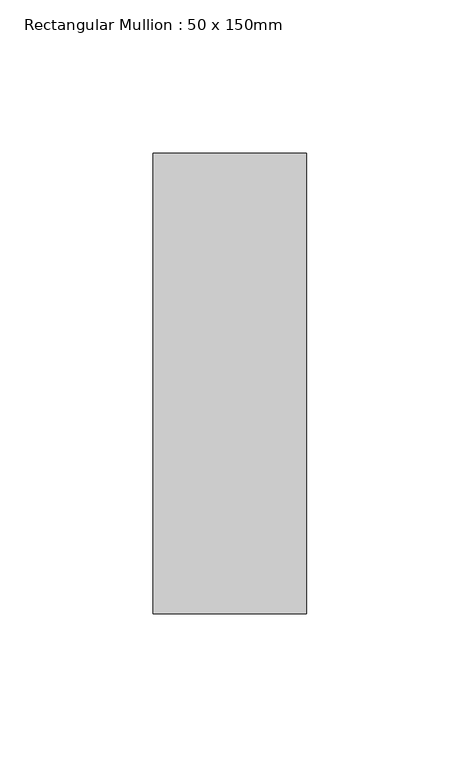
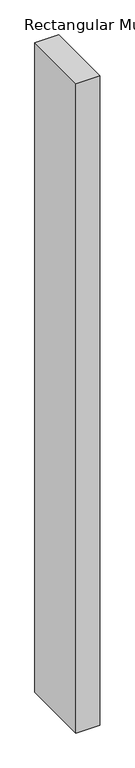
"""IFC4 building model written with IfcOpenShell, lengths in millimetres: member geometry, Rectangular Mullion : 50 x 150mm."""

from ifc_helpers import new_model, si_unit, frame, origin, place, context, project, spatial, polyline, outline, extrude, source, transform, mapped, element, save


def rectangular_mullion_50_x_150mm_339d4f99(model_context):
    return source(origin(), model_context, "Body", "SweptSolid", [
        extrude(outline(polyline([(0.0, 75.0), (0.0, -75.0), (-50.0, -75.0), (-50.0, 75.0), (0.0, 75.0)])), frame((0.0, 0.0, -1449.0), z_axis=(0.0, 0.0, 1.0), x_axis=(1.0, 0.0, 0.0)), (0.0, 0.0, 1.0), 1449.0),
    ])


if __name__ == "__main__":
    model = new_model("IFC4")
    model_context = context("Model", 3, world=origin())
    ifc_project = project(units=[si_unit("LENGTHUNIT", "METRE", prefix="MILLI")], contexts=[model_context])
    site = spatial("IfcSite", under=ifc_project)
    building = spatial("IfcBuilding", under=site)
    placement = place(None, origin())
    rectangular_mullion_50_x_150mm_shape = rectangular_mullion_50_x_150mm_339d4f99(model_context)
    element("IfcMember", 1, ObjectType="Rectangular Mullion : 50 x 150mm", at=placement, inside=building, context=model_context, shape_type="MappedRepresentation", body=[
        mapped(rectangular_mullion_50_x_150mm_shape, transform((0.0, 0.0, 0.0), x_axis=(1.0, 0.0, 0.0), y_axis=(0.0, 1.0, 0.0), z_axis=(0.0, 0.0, 1.0))),
    ])
    save(model, "model.ifc")
